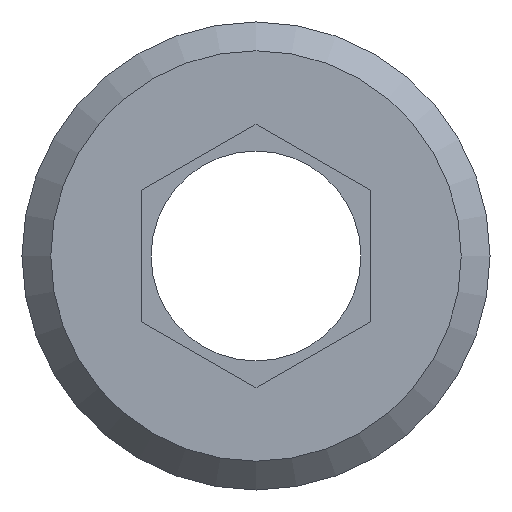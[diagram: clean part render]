
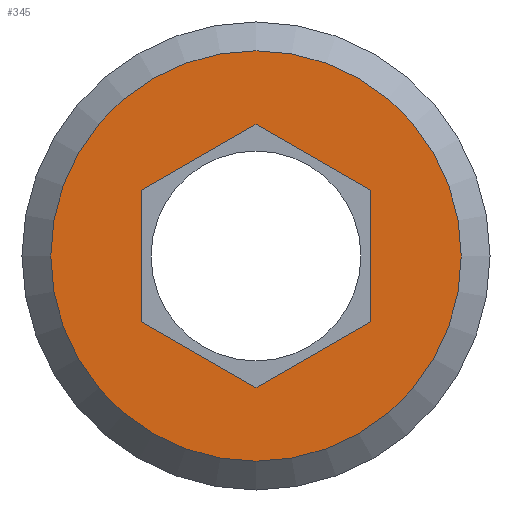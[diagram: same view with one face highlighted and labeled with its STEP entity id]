
A CAD part, front view. The second image highlights one B-rep face of the part: STEP entity #345.
In plain terms, the highlighted planar face has unit normal (0, -1, 0).
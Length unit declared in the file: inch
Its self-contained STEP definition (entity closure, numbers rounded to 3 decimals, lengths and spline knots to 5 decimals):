
#19=FACE_BOUND('',#87,.T.);
#39=CIRCLE('',#390,0.225);
#65=FACE_OUTER_BOUND('',#86,.T.);
#86=EDGE_LOOP('',(#285));
#87=EDGE_LOOP('',(#286,#287,#288,#289,#290,#291));
#95=LINE('',#524,#119);
#99=LINE('',#532,#123);
#102=LINE('',#538,#126);
#105=LINE('',#544,#129);
#108=LINE('',#550,#132);
#111=LINE('',#555,#135);
#119=VECTOR('',#412,0.3937);
#123=VECTOR('',#418,0.3937);
#126=VECTOR('',#423,0.3937);
#129=VECTOR('',#428,0.3937);
#132=VECTOR('',#433,0.3937);
#135=VECTOR('',#438,0.3937);
#143=VERTEX_POINT('',#522);
#144=VERTEX_POINT('',#523);
#147=VERTEX_POINT('',#531);
#149=VERTEX_POINT('',#537);
#151=VERTEX_POINT('',#543);
#153=VERTEX_POINT('',#549);
#166=VERTEX_POINT('',#588);
#177=EDGE_CURVE('',#143,#144,#95,.T.);
#181=EDGE_CURVE('',#147,#143,#99,.T.);
#184=EDGE_CURVE('',#149,#147,#102,.T.);
#187=EDGE_CURVE('',#151,#149,#105,.T.);
#190=EDGE_CURVE('',#153,#151,#108,.T.);
#193=EDGE_CURVE('',#144,#153,#111,.T.);
#209=EDGE_CURVE('',#166,#166,#39,.T.);
#285=ORIENTED_EDGE('',*,*,#209,.F.);
#286=ORIENTED_EDGE('',*,*,#190,.T.);
#287=ORIENTED_EDGE('',*,*,#187,.T.);
#288=ORIENTED_EDGE('',*,*,#184,.T.);
#289=ORIENTED_EDGE('',*,*,#181,.T.);
#290=ORIENTED_EDGE('',*,*,#177,.T.);
#291=ORIENTED_EDGE('',*,*,#193,.T.);
#329=PLANE('',#396);
#345=ADVANCED_FACE('',(#65,#19),#329,.T.);
#390=AXIS2_PLACEMENT_3D('',#589,#479,#480);
#396=AXIS2_PLACEMENT_3D('',#601,#493,#494);
#412=DIRECTION('',(-0.866,0.,-0.5));
#418=DIRECTION('',(0.,0.,-1.));
#423=DIRECTION('',(0.866,0.,-0.5));
#428=DIRECTION('',(0.866,0.,0.5));
#433=DIRECTION('',(0.,0.,1.));
#438=DIRECTION('',(-0.866,0.,0.5));
#479=DIRECTION('center_axis',(0.,1.,0.));
#480=DIRECTION('ref_axis',(0.,0.,1.));
#493=DIRECTION('center_axis',(0.,-1.,0.));
#494=DIRECTION('ref_axis',(0.,0.,-1.));
#522=CARTESIAN_POINT('',(0.125,0.,-0.07217));
#523=CARTESIAN_POINT('',(0.,0.,-0.14434));
#524=CARTESIAN_POINT('',(0.06669,0.,-0.10584));
#531=CARTESIAN_POINT('',(0.125,0.,0.07217));
#532=CARTESIAN_POINT('',(0.125,0.,-0.02642));
#537=CARTESIAN_POINT('',(0.,0.,0.14434));
#538=CARTESIAN_POINT('',(0.05831,0.,0.11067));
#543=CARTESIAN_POINT('',(-0.125,0.,0.07217));
#544=CARTESIAN_POINT('',(-0.12081,0.,0.07459));
#549=CARTESIAN_POINT('',(-0.125,0.,-0.07217));
#550=CARTESIAN_POINT('',(-0.125,0.,-0.09858));
#555=CARTESIAN_POINT('',(-0.00419,0.,-0.14192));
#588=CARTESIAN_POINT('',(0.,0.,-0.225));
#589=CARTESIAN_POINT('Origin',(0.,0.,0.));
#601=CARTESIAN_POINT('Origin',(0.,0.,-0.125));
